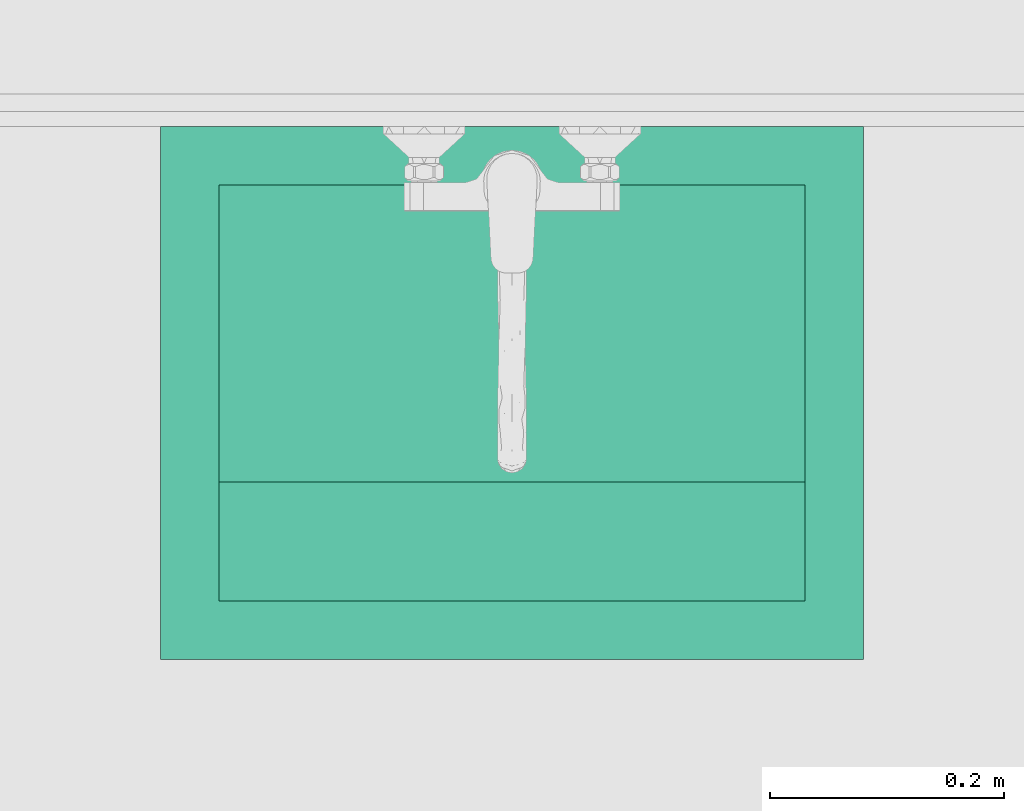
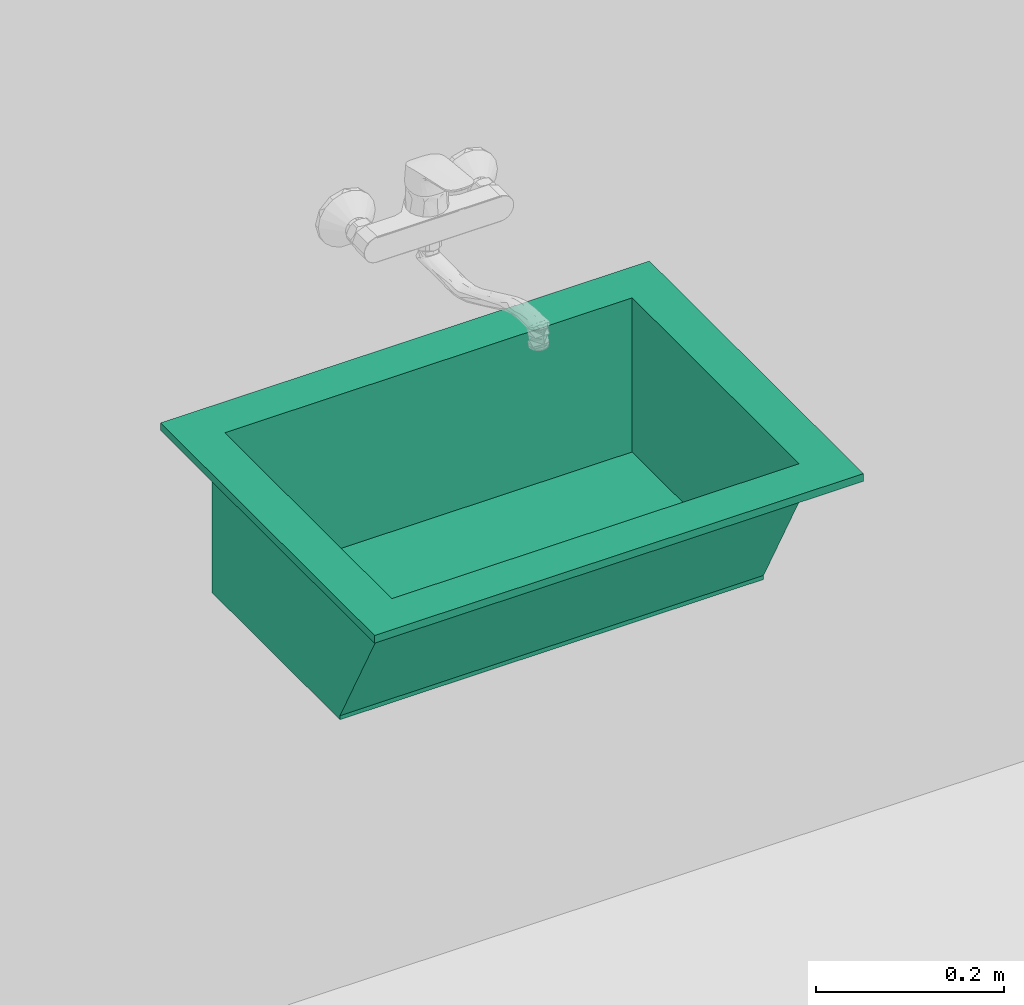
# One storey, part 8 of 12: 1 flow terminal.
"""IFC4 building model written with IfcOpenShell, lengths in millimetres."""

import ifcopenshell
import ifcopenshell.guid

model = None  # the IFC model being written
_history = None  # IfcOwnerHistory: only IFC2X3 demands one
_inside = {}  # id of a spatial element -> (the spatial element, [elements in it])
_under = {}  # id of a project, library or spatial element -> (it, [spatial elements below it])
_declared = {}  # id of a project -> (the project, [libraries it declares])
_typed = {}  # id of a type object -> (the type object, [elements of that type])
_made_of = {}  # id of a material, layer set ... -> (it, [elements and type objects made of it])


def new_model(schema):
    """Start an empty IFC model of exactly this schema.

    Asked for "IFC4X3", IfcOpenShell would pick the latest addendum, in which some entities
    have other attributes; the version numbers below select the first issue.
    IFC2X3 requires an IfcOwnerHistory on every rooted entity: one is made here for all.
    """
    global model, _history
    if schema == "IFC4X3":
        model = ifcopenshell.file(schema_version=(4, 3, 0, 0))
    else:
        model = ifcopenshell.file(schema=schema)
    _inside.clear()
    _under.clear()
    _declared.clear()
    _typed.clear()
    _made_of.clear()
    _history = None
    if model.schema == "IFC2X3":
        org = make("IfcOrganization", Name="unknown")
        user = make(
            "IfcPersonAndOrganization",
            ThePerson=make("IfcPerson", FamilyName="unknown"),
            TheOrganization=org,
        )
        app = make(
            "IfcApplication",
            ApplicationDeveloper=org,
            Version="unknown",
            ApplicationFullName="unknown",
            ApplicationIdentifier="unknown",
        )
        _history = make(
            "IfcOwnerHistory",
            OwningUser=user,
            OwningApplication=app,
            ChangeAction="ADDED",
            CreationDate=0,
        )
    return model


def make(cls, **values):
    """One entity of the class cls with the attributes given. An attribute that is None is left unset."""
    return model.create_entity(
        cls, **{name: value for name, value in values.items() if value is not None}
    )


def entity(cls, *values):
    """Any entity or typed value of the class cls, its attributes in the order of the schema. None: left unset."""
    e = model.create_entity(cls)
    for i, value in enumerate(values):
        if value is not None:
            e[i] = value
    return e


def rooted(cls, **values):
    """An entity with a GlobalId (a new one), such as an element, a storey or a relation."""
    return make(cls, GlobalId=ifcopenshell.guid.new(), OwnerHistory=_history, **values)


def si_unit(unit_type, name, prefix=None):
    """IfcSIUnit, for example si_unit("LENGTHUNIT", "METRE", prefix="MILLI")."""
    return make("IfcSIUnit", UnitType=unit_type, Prefix=prefix, Name=name)


def converted_unit(unit_type, name, factor, base, dimensions=None, offset=None):
    """IfcConversionBasedUnit, such as the inch: factor (a typed value) times the base unit."""
    return make(
        "IfcConversionBasedUnit"
        if offset is None
        else "IfcConversionBasedUnitWithOffset",
        ConversionOffset=offset,
        Dimensions=None
        if dimensions is None
        else entity("IfcDimensionalExponents", *dimensions),
        UnitType=unit_type,
        Name=name,
        ConversionFactor=make(
            "IfcMeasureWithUnit", ValueComponent=factor, UnitComponent=base
        ),
    )


def assignment(units):
    """IfcUnitAssignment: the units of a project."""
    return None if units is None else make("IfcUnitAssignment", Units=units)


def point(xyz):
    """IfcCartesianPoint."""
    return None if xyz is None else make("IfcCartesianPoint", Coordinates=xyz)


def direction(xyz):
    """IfcDirection."""
    return None if xyz is None else make("IfcDirection", DirectionRatios=xyz)


def frame(location, z_axis=None, x_axis=None):
    """IfcAxis2Placement3D, a coordinate frame: its origin and axes. An axis left out is left unset."""
    return make(
        "IfcAxis2Placement3D",
        Location=point(location),
        Axis=direction(z_axis),
        RefDirection=direction(x_axis),
    )


def origin():
    """The frame at (0, 0, 0) with its axes left unset."""
    return frame((0.0, 0.0, 0.0))


def place(relative_to, where):
    """IfcLocalPlacement: puts the frame where relative to a parent placement (None: the world)."""
    return make(
        "IfcLocalPlacement", PlacementRelTo=relative_to, RelativePlacement=where
    )


def context(
    kind, dimensions, precision=None, world=None, true_north=None, identifier=None
):
    """IfcGeometricRepresentationContext, for example the 3D "Model" context."""
    return make(
        "IfcGeometricRepresentationContext",
        ContextIdentifier=identifier,
        ContextType=kind,
        CoordinateSpaceDimension=dimensions,
        Precision=precision,
        WorldCoordinateSystem=world,
        TrueNorth=true_north,
    )


def subcontext(parent, identifier, kind, view, scale=None):
    """IfcGeometricRepresentationSubContext, for example "Body" below "Model"."""
    return make(
        "IfcGeometricRepresentationSubContext",
        ContextIdentifier=identifier,
        ContextType=kind,
        ParentContext=parent,
        TargetScale=scale,
        TargetView=view,
    )


def project(units=None, contexts=None):
    """IfcProject with its units and contexts."""
    return rooted(
        "IfcProject",
        Name="project",
        RepresentationContexts=contexts,
        UnitsInContext=assignment(units),
    )


def spatial(cls, under=None, at=None, **own):
    """A site, building, storey or space (cls), placed at a placement, below another one or the project."""
    s = rooted(cls, ObjectPlacement=at, **own)
    if under is not None:
        _under.setdefault(under.id(), (under, []))[1].append(s)
    return s


def point_list(points):
    """IfcCartesianPointList2D or 3D."""
    cls = (
        "IfcCartesianPointList2D" if len(points[0]) == 2 else "IfcCartesianPointList3D"
    )
    return make(cls, CoordList=points)


def indexed_curve(points, segments=None, self_intersect=None):
    """IfcIndexedPolyCurve: lines and arcs through numbered points (the first is 1)."""
    return make(
        "IfcIndexedPolyCurve",
        Points=point_list(points),
        Segments=segments,
        SelfIntersect=self_intersect,
    )


def outline(outer, holes=None, kind="AREA"):
    """IfcArbitraryClosedProfileDef: a profile drawn as a closed curve; with holes, ...WithVoids."""
    if holes is None:
        return make("IfcArbitraryClosedProfileDef", ProfileType=kind, OuterCurve=outer)
    return make(
        "IfcArbitraryProfileDefWithVoids",
        ProfileType=kind,
        OuterCurve=outer,
        InnerCurves=holes,
    )


def extrude(swept, where, along, depth):
    """IfcExtrudedAreaSolid: the profile swept, set in the frame where, extruded along a direction by depth."""
    return make(
        "IfcExtrudedAreaSolid",
        SweptArea=swept,
        Position=where,
        ExtrudedDirection=direction(along),
        Depth=depth,
    )


def shape(context_of_items, identifier, shape_type, items):
    """IfcShapeRepresentation: the items that make up one representation, for example the "Body"."""
    return make(
        "IfcShapeRepresentation",
        ContextOfItems=context_of_items,
        RepresentationIdentifier=identifier,
        RepresentationType=shape_type,
        Items=items,
    )


def source(mapping_origin, context_of_items, identifier, shape_type, items):
    """IfcRepresentationMap: a shape defined once, which mapped items show again and again."""
    return make(
        "IfcRepresentationMap",
        MappingOrigin=mapping_origin,
        MappedRepresentation=shape(context_of_items, identifier, shape_type, items),
    )


def transform(
    local_origin,
    x_axis=None,
    y_axis=None,
    z_axis=None,
    scale=None,
    scale2=None,
    scale3=None,
    uniform=True,
):
    """IfcCartesianTransformationOperator3D, or its non-uniform kind. x_axis, y_axis, z_axis: its Axis1, 2, 3."""
    if uniform:
        return make(
            "IfcCartesianTransformationOperator3D",
            Axis1=direction(x_axis),
            Axis2=direction(y_axis),
            LocalOrigin=point(local_origin),
            Scale=scale,
            Axis3=direction(z_axis),
        )
    return make(
        "IfcCartesianTransformationOperator3DnonUniform",
        Axis1=direction(x_axis),
        Axis2=direction(y_axis),
        LocalOrigin=point(local_origin),
        Scale=scale,
        Axis3=direction(z_axis),
        Scale2=scale2,
        Scale3=scale3,
    )


def mapped(mapping_source, mapping_target):
    """IfcMappedItem: shows the shape of a source again, moved by a transform."""
    return make(
        "IfcMappedItem", MappingSource=mapping_source, MappingTarget=mapping_target
    )


def material(Name=None, Category=None):
    """IfcMaterial."""
    return make("IfcMaterial", Name=Name, Category=Category)


def made_of(thing, what):
    """Note that an element or type object is made of a material, layer set ...; save() writes the relation."""
    if what is not None:
        _made_of.setdefault(what.id(), (what, []))[1].append(thing)
    return thing


def type_object(cls, material=None, **own):
    """A type object (cls), such as IfcWallType, which elements share."""
    return made_of(rooted(cls, **own), material)


def type_shapes(of_type, sources):
    """Give a type object the sources (RepresentationMaps) that its elements show as mapped items."""
    of_type.RepresentationMaps = sources


def element(
    cls,
    number,
    at=None,
    inside=None,
    cuts=None,
    type_object=None,
    material=None,
    context=None,
    identifier="Body",
    shape_type=None,
    held_by="IfcProductDefinitionShape",
    body=None,
    shapes=None,
    **own,
):
    """One element of the class cls, such as IfcWall. Its Tag is "e" and its number.

    at: its placement. inside: the storey or other place that contains it. cuts: it is an
    opening in that element (IfcRelVoidsElement). A single representation is given by context,
    identifier, shape_type and body (its items); several are given by shapes. held_by: the class
    of the entity that holds the representations. save() writes the other relations.
    """
    e = rooted(cls, Tag="e%d" % number, ObjectPlacement=at, **own)
    if body is not None:
        shapes = [shape(context, identifier, shape_type, body)]
    if shapes is not None:
        e.Representation = make(held_by, Representations=shapes)
    if inside is not None:
        _inside.setdefault(inside.id(), (inside, []))[1].append(e)
    if cuts is not None:
        rooted(
            "IfcRelVoidsElement", RelatingBuildingElement=cuts, RelatedOpeningElement=e
        )
    if type_object is not None:
        _typed.setdefault(type_object.id(), (type_object, []))[1].append(e)
    return made_of(e, material)


def aggregate(whole, parts):
    """IfcRelAggregates: a whole, such as a stair, and the parts it consists of."""
    return rooted("IfcRelAggregates", RelatingObject=whole, RelatedObjects=parts)


def save(model, path):
    """Write the relations noted so far, then the file.

    IfcRelAggregates (storeys below a building ...), IfcRelContainedInSpatialStructure (elements
    in a storey), IfcRelDefinesByType, IfcRelAssociatesMaterial and IfcRelDeclares: one each for
    every whole, place, type object, material and project.
    """
    for whole, parts in _under.values():
        aggregate(whole, parts)
    for where, things in _inside.values():
        rooted(
            "IfcRelContainedInSpatialStructure",
            RelatedElements=things,
            RelatingStructure=where,
        )
    for kind, things in _typed.values():
        rooted("IfcRelDefinesByType", RelatedObjects=things, RelatingType=kind)
    for what, things in _made_of.values():
        rooted("IfcRelAssociatesMaterial", RelatedObjects=things, RelatingMaterial=what)
    for by, libraries in _declared.values():
        rooted("IfcRelDeclares", RelatingContext=by, RelatedDefinitions=libraries)
    model.write(path)


model = new_model("IFC4")

# Units and contexts
model_context = context("Model", 3, precision=0.01, world=origin(), true_north=direction((0.0, 1.0)))
body_context = subcontext(model_context, "Body", "Model", "MODEL_VIEW")
ifc_project = project(units=[si_unit("LENGTHUNIT", "METRE", prefix="MILLI"), si_unit("AREAUNIT", "SQUARE_METRE"), si_unit("VOLUMEUNIT", "CUBIC_METRE"), converted_unit("PLANEANGLEUNIT", "DEGREE", entity("IfcPlaneAngleMeasure", 0.017453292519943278), si_unit("PLANEANGLEUNIT", "RADIAN"), dimensions=[0, 0, 0, 0, 0, 0, 0])], contexts=[model_context])

# Site, building, storey, space
site_placement = place(None, origin())
site = spatial("IfcSite", under=ifc_project, at=site_placement, Name="Tomtens navn", CompositionType="ELEMENT")
building_placement = place(site_placement, origin())
building = spatial("IfcBuilding", under=site, at=building_placement, Name="Byggets navn", CompositionType="ELEMENT")
storey_placement = place(building_placement, frame((0.0, 0.0, 3500.0)))
storey = spatial("IfcBuildingStorey", under=building, at=storey_placement, Name="Level 02", CompositionType="ELEMENT", Elevation=3499.999999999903)
space_placement = place(storey_placement, origin())
space = spatial("IfcSpace", under=storey, at=space_placement, Name="202", CompositionType="ELEMENT", PredefinedType="NOTDEFINED")

# Flow terminal
ifc_material = material(Name="Metal - Aluminium", Category="Unassigned")
distribution_element_type = type_object("IfcDistributionElementType", Name="Sink_03:Middels", material=ifc_material)
shared_shape = source(origin(), body_context, "Body", "SweptSolid", [
    extrude(outline(indexed_curve([(-227.50000000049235, -300.0), (227.50000000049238, -300.0), (227.50000000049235, 300.0), (-227.50000000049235, 300.0), (-227.50000000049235, -300.0)], self_intersect=False), holes=[indexed_curve([(-177.50000000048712, -249.99999999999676), (-177.50000000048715, 250.00000000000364), (177.50000000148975, 250.00000000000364), (177.50000000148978, -249.99999999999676), (-177.50000000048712, -249.99999999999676)], self_intersect=False)]), frame((94.41156576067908, 98.42530613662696, 890.0), z_axis=(0.0, 0.0, 1.0), x_axis=(0.0, -1.0, 0.0)), (0.0, 0.0, 1.0), 10.000000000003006),
    extrude(outline(indexed_curve([(-250.00000000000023, -4.999999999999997), (250.00000000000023, -4.999999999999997), (250.00000000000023, 4.999999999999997), (-250.00000000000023, 4.999999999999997), (-250.00000000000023, -4.999999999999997)], self_intersect=False)), frame((94.411565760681, -84.07469386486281, 700.0), z_axis=(0.0, 0.0, 1.0), x_axis=(-1.0, 0.0, 0.0)), (0.0, 0.0, 1.0), 190.0000000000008),
    extrude(outline(indexed_curve([(-207.91666666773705, -94.99999999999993), (157.08333333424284, -94.99999999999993), (157.08333333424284, 95.00000000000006), (-106.25000000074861, 95.00000000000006), (-207.91666666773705, -94.99999999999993)], self_intersect=False)), frame((344.41156576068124, 68.00863946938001, 795.0), z_axis=(1.0, 0.0, 0.0), x_axis=(0.0, -1.0, 0.0)), (0.0, 0.0, 1.0), 9.999999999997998),
    extrude(outline(indexed_curve([(-207.916666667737, -94.99999999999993), (157.08333333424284, -94.99999999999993), (157.08333333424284, 95.00000000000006), (-106.25000000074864, 95.00000000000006), (-207.916666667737, -94.99999999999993)], self_intersect=False)), frame((-165.5884342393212, 68.00863946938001, 795.0), z_axis=(1.0, 0.0, 0.0), x_axis=(0.0, -1.0, 0.0)), (0.0, 0.0, 1.0), 10.000000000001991),
    extrude(outline(indexed_curve([(-5.000000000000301, -107.74519839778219), (4.999999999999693, -107.74519839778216), (5.000000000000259, 107.74519839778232), (-4.999999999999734, 107.7451983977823), (-5.000000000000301, -107.74519839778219)], self_intersect=False)), frame((-165.5884342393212, 229.50052192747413, 792.6410395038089), z_axis=(1.0, 0.0, 0.0), x_axis=(0.0, -0.8817098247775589, 0.4717920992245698)), (0.0, 0.0, 1.0), 520.0000000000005),
    extrude(outline(indexed_curve([(-136.0752157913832, -260.0000000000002), (136.07521579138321, -260.0000000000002), (136.07521579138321, 260.0000000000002), (-136.07521579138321, 260.0000000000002), (-136.0752157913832, -260.0000000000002)], self_intersect=False)), frame((94.41156576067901, 47.00052192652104, 690.0), z_axis=(0.0, 0.0, 1.0), x_axis=(0.0, 1.0, 0.0)), (0.0, 0.0, 1.0), 10.000000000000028),
])
type_shapes(distribution_element_type, [shared_shape])
flow_terminal_placement = place(space_placement, frame((67317.26509386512, 13878.39176306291, -90.0), z_axis=(0.0, 0.0, 1.0), x_axis=(-1.0, 0.0, 0.0)))
element("IfcFlowTerminal", 1, at=flow_terminal_placement, inside=space, type_object=distribution_element_type, material=ifc_material, Name="Sink_03:Middels", context=body_context, shape_type="MappedRepresentation", body=[
    mapped(shared_shape, transform((0.0, 0.0, 0.0), scale=1.0)),
])

save(model, "model.ifc")
